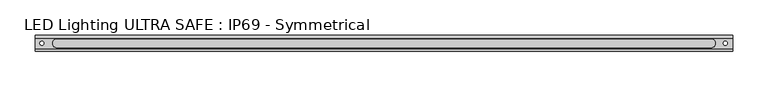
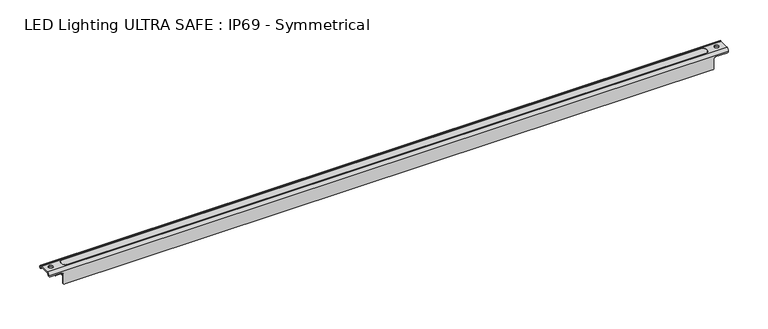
"""IFC4 building model written with IfcOpenShell, lengths in millimetres: light fixture geometry, LED Lighting ULTRA SAFE : IP69 - Symmetrical."""

from ifc_helpers import new_model, si_unit, point, frame, frame_2d, origin, place, context, project, spatial, polyline, circle_curve, trimmed, segment, composite_curve, outline, extrude, source, transform, mapped, element, save
from ifc_brep_helpers import plane_surface, cylinder_surface, revolved_surface, advanced_brep


def led_lighting_ultra_safe_ip69_symmetrical_39629687(model_context):
    return source(origin(), model_context, "Body", "SolidModel", [
        advanced_brep(
        [(1250.8476945, -96.9051608, 20.5), (1250.8476945, -100.9051608, 24.5), (1250.8476945, -115.9051608, 24.5), (1250.8476945, -119.9051608, 20.5), (1250.8476945, -118.4051608, 20.5), (1250.8476945, -115.9051608, 23.0), (1250.8476945, -100.9051608, 23.0), (1250.8476945, -98.4051608, 20.5), (260.8476945, -98.4051608, 20.5), (260.8476945, -100.9051608, 23.0), (260.8476945, -115.9051608, 23.0), (260.8476945, -118.4051608, 20.5), (260.8476945, -119.9051608, 20.5), (260.8476945, -115.9051608, 24.5), (260.8476945, -100.9051608, 24.5), (260.8476945, -96.9051608, 20.5), (283.8476945, -98.4051608, 0.0), (283.8476945, -96.9051608, 0.0), (1227.8476945, -96.9051608, 0.0), (1227.8476945, -98.4051608, 0.0), (1248.8476945, -96.9051608, 18.5), (1231.8476945, -96.9051608, 18.5), (1229.8476945, -96.9051608, 16.5), (1229.8476945, -96.9051608, 2.0), (281.8476945, -96.9051608, 2.0), (281.8476945, -96.9051608, 16.5), (279.8476945, -96.9051608, 18.5), (262.8476945, -96.9051608, 18.5), (285.8476945, -109.4051608, 24.5), (285.8476945, -107.4051608, 24.5), (290.8476945, -102.4051608, 24.5), (1220.8476945, -102.4051608, 24.5), (1225.8476945, -107.4051608, 24.5), (1225.8476945, -109.4051608, 24.5), (1220.8476945, -114.4051608, 24.5), (290.8476945, -114.4051608, 24.5), (1240.2796493, -105.3847966, 24.5), (1240.2796493, -111.3247409, 24.5), (270.2796493, -105.3847966, 24.5), (270.2796493, -111.3247409, 24.5), (262.8476945, -119.9051608, 18.5), (279.8476945, -119.9051608, 18.5), (281.8476945, -119.9051608, 16.5), (281.8476945, -119.9051608, 2.0), (283.8476945, -119.9051608, 0.0), (1227.8476945, -119.9051608, 0.0), (1229.8476945, -119.9051608, 2.0), (1229.8476945, -119.9051608, 16.5), (1231.8476945, -119.9051608, 18.5), (1248.8476945, -119.9051608, 18.5), (283.8476945, -118.4051608, 0.0), (1227.8476945, -118.4051608, 0.0), (1248.8476945, -118.4051608, 18.5), (1231.8476945, -118.4051608, 18.5), (1229.8476945, -118.4051608, 16.5), (1229.8476945, -118.4051608, 2.0), (281.8476945, -118.4051608, 2.0), (281.8476945, -118.4051608, 16.5), (279.8476945, -118.4051608, 18.5), (262.8476945, -118.4051608, 18.5), (285.8476945, -107.4051608, 23.0), (285.8476945, -109.4051608, 23.0), (290.8476945, -114.4051608, 23.0), (1220.8476945, -114.4051608, 23.0), (1225.8476945, -109.4051608, 23.0), (1225.8476945, -107.4051608, 23.0), (1220.8476945, -102.4051608, 23.0), (290.8476945, -102.4051608, 23.0), (1240.2796493, -111.3247409, 23.0), (1240.2796493, -105.3847966, 23.0), (270.2796493, -111.3247409, 23.0), (270.2796493, -105.3847966, 23.0), (262.8476945, -98.4051608, 18.5), (279.8476945, -98.4051608, 18.5), (281.8476945, -98.4051608, 16.5), (281.8476945, -98.4051608, 2.0), (1229.8476945, -98.4051608, 2.0), (1229.8476945, -98.4051608, 16.5), (1231.8476945, -98.4051608, 18.5), (1248.8476945, -98.4051608, 18.5)],
        [
            (0, 1, circle_curve(frame((1250.8476945, -100.9051608, 20.5), z_axis=(1.0, 0.0, 0.0), x_axis=(0.0, 0.0, 1.0)), 4.0)),
            (1, 2),
            (2, 3, circle_curve(frame((1250.8476945, -115.9051608, 20.5), z_axis=(1.0, 0.0, 0.0), x_axis=(0.0, 0.0, 1.0)), 4.0)),
            (3, 4),
            (4, 5, circle_curve(frame((1250.8476945, -115.9051608, 20.5), z_axis=(-1.0, 0.0, 0.0), x_axis=(0.0, 0.0, 1.0)), 2.5)),
            (5, 6),
            (6, 7, circle_curve(frame((1250.8476945, -100.9051608, 20.5), z_axis=(-1.0, 0.0, 0.0), x_axis=(0.0, 0.0, 1.0)), 2.5)),
            (7, 0),
            (8, 9, circle_curve(frame((260.8476945, -100.9051608, 20.5), z_axis=(1.0, 0.0, 0.0), x_axis=(0.0, 0.0, 1.0)), 2.5)),
            (9, 10),
            (10, 11, circle_curve(frame((260.8476945, -115.9051608, 20.5), z_axis=(1.0, 0.0, 0.0), x_axis=(0.0, 0.0, 1.0)), 2.5)),
            (11, 12),
            (12, 13, circle_curve(frame((260.8476945, -115.9051608, 20.5), z_axis=(-1.0, 0.0, 0.0), x_axis=(0.0, 0.0, 1.0)), 4.0)),
            (13, 14),
            (14, 15, circle_curve(frame((260.8476945, -100.9051608, 20.5), z_axis=(-1.0, 0.0, 0.0), x_axis=(0.0, 0.0, 1.0)), 4.0)),
            (15, 8),
            (16, 17),
            (17, 18),
            (18, 19),
            (19, 16),
            (15, 0),
            (0, 20, circle_curve(frame((1248.8476945, -96.9051608, 20.5), z_axis=(0.0, 1.0, 0.0), x_axis=(0.0, 0.0, 1.0)), 2.0)),
            (20, 21),
            (21, 22, circle_curve(frame((1231.8476945, -96.9051608, 16.5), z_axis=(0.0, -1.0, 0.0), x_axis=(0.0, 0.0, 1.0)), 2.0)),
            (22, 23),
            (23, 18, circle_curve(frame((1227.8476945, -96.9051608, 2.0), z_axis=(0.0, 1.0, 0.0), x_axis=(0.0, 0.0, 1.0)), 2.0)),
            (17, 24, circle_curve(frame((283.8476945, -96.9051608, 2.0), z_axis=(0.0, 1.0, 0.0), x_axis=(0.0, 0.0, 1.0)), 2.0)),
            (24, 25),
            (25, 26, circle_curve(frame((279.8476945, -96.9051608, 16.5), z_axis=(0.0, -1.0, 0.0), x_axis=(0.0, 0.0, 1.0)), 2.0)),
            (26, 27),
            (27, 15, circle_curve(frame((262.8476945, -96.9051608, 20.5), z_axis=(0.0, 1.0, 0.0), x_axis=(0.0, 0.0, 1.0)), 2.0)),
            (14, 1),
            (13, 2),
            (28, 29),
            (29, 30, circle_curve(frame((290.8476945, -107.4051608, 24.5), z_axis=(0.0, 0.0, -1.0), x_axis=(0.0, 1.0, 0.0)), 5.0)),
            (30, 31),
            (31, 32, circle_curve(frame((1220.8476945, -107.4051608, 24.5), z_axis=(0.0, 0.0, -1.0), x_axis=(0.0, 1.0, 0.0)), 5.0)),
            (32, 33),
            (33, 34, circle_curve(frame((1220.8476945, -109.4051608, 24.5), z_axis=(0.0, 0.0, -1.0), x_axis=(0.0, 1.0, 0.0)), 5.0)),
            (34, 35),
            (35, 28, circle_curve(frame((290.8476945, -109.4051608, 24.5), z_axis=(0.0, 0.0, -1.0), x_axis=(0.0, 1.0, 0.0)), 5.0)),
            (36, 37, circle_curve(frame((1240.2796493, -108.3547688, 24.5), z_axis=(0.0, 0.0, -1.0), x_axis=(0.0, 1.0, 0.0)), 2.9699721)),
            (37, 36, circle_curve(frame((1240.2796493, -108.3547688, 24.5), z_axis=(0.0, 0.0, -1.0), x_axis=(0.0, 1.0, 0.0)), 2.9699721)),
            (38, 39, circle_curve(frame((270.2796493, -108.3547688, 24.5), z_axis=(0.0, 0.0, -1.0), x_axis=(0.0, 1.0, 0.0)), 2.9699721)),
            (39, 38, circle_curve(frame((270.2796493, -108.3547688, 24.5), z_axis=(0.0, 0.0, -1.0), x_axis=(0.0, 1.0, 0.0)), 2.9699721)),
            (12, 3),
            (12, 40, circle_curve(frame((262.8476945, -119.9051608, 20.5), z_axis=(0.0, -1.0, 0.0), x_axis=(0.0, 0.0, 1.0)), 2.0)),
            (40, 41),
            (41, 42, circle_curve(frame((279.8476945, -119.9051608, 16.5), z_axis=(0.0, 1.0, 0.0), x_axis=(0.0, 0.0, 1.0)), 2.0)),
            (42, 43),
            (43, 44, circle_curve(frame((283.8476945, -119.9051608, 2.0), z_axis=(0.0, -1.0, 0.0), x_axis=(0.0, 0.0, 1.0)), 2.0)),
            (44, 45),
            (45, 46, circle_curve(frame((1227.8476945, -119.9051608, 2.0), z_axis=(0.0, -1.0, 0.0), x_axis=(0.0, 0.0, 1.0)), 2.0)),
            (46, 47),
            (47, 48, circle_curve(frame((1231.8476945, -119.9051608, 16.5), z_axis=(0.0, 1.0, 0.0), x_axis=(0.0, 0.0, 1.0)), 2.0)),
            (48, 49),
            (49, 3, circle_curve(frame((1248.8476945, -119.9051608, 20.5), z_axis=(0.0, -1.0, 0.0), x_axis=(0.0, 0.0, 1.0)), 2.0)),
            (44, 50),
            (50, 51),
            (51, 45),
            (11, 4),
            (4, 52, circle_curve(frame((1248.8476945, -118.4051608, 20.5), z_axis=(0.0, 1.0, 0.0), x_axis=(0.0, 0.0, 1.0)), 2.0)),
            (52, 53),
            (53, 54, circle_curve(frame((1231.8476945, -118.4051608, 16.5), z_axis=(0.0, -1.0, 0.0), x_axis=(0.0, 0.0, 1.0)), 2.0)),
            (54, 55),
            (55, 51, circle_curve(frame((1227.8476945, -118.4051608, 2.0), z_axis=(0.0, 1.0, 0.0), x_axis=(0.0, 0.0, 1.0)), 2.0)),
            (50, 56, circle_curve(frame((283.8476945, -118.4051608, 2.0), z_axis=(0.0, 1.0, 0.0), x_axis=(0.0, 0.0, 1.0)), 2.0)),
            (56, 57),
            (57, 58, circle_curve(frame((279.8476945, -118.4051608, 16.5), z_axis=(0.0, -1.0, 0.0), x_axis=(0.0, 0.0, 1.0)), 2.0)),
            (58, 59),
            (59, 11, circle_curve(frame((262.8476945, -118.4051608, 20.5), z_axis=(0.0, 1.0, 0.0), x_axis=(0.0, 0.0, 1.0)), 2.0)),
            (10, 5),
            (9, 6),
            (60, 61),
            (61, 62, circle_curve(frame((290.8476945, -109.4051608, 23.0), z_axis=(0.0, 0.0, 1.0), x_axis=(0.0, 1.0, 0.0)), 5.0)),
            (62, 63),
            (63, 64, circle_curve(frame((1220.8476945, -109.4051608, 23.0), z_axis=(0.0, 0.0, 1.0), x_axis=(0.0, 1.0, 0.0)), 5.0)),
            (64, 65),
            (65, 66, circle_curve(frame((1220.8476945, -107.4051608, 23.0), z_axis=(0.0, 0.0, 1.0), x_axis=(0.0, 1.0, 0.0)), 5.0)),
            (66, 67),
            (67, 60, circle_curve(frame((290.8476945, -107.4051608, 23.0), z_axis=(0.0, 0.0, 1.0), x_axis=(0.0, 1.0, 0.0)), 5.0)),
            (68, 69, circle_curve(frame((1240.2796493, -108.3547688, 23.0), z_axis=(0.0, 0.0, 1.0), x_axis=(0.0, 1.0, 0.0)), 2.9699721)),
            (69, 68, circle_curve(frame((1240.2796493, -108.3547688, 23.0), z_axis=(0.0, 0.0, 1.0), x_axis=(0.0, 1.0, 0.0)), 2.9699721)),
            (70, 71, circle_curve(frame((270.2796493, -108.3547688, 23.0), z_axis=(0.0, 0.0, 1.0), x_axis=(0.0, 1.0, 0.0)), 2.9699721)),
            (71, 70, circle_curve(frame((270.2796493, -108.3547688, 23.0), z_axis=(0.0, 0.0, 1.0), x_axis=(0.0, 1.0, 0.0)), 2.9699721)),
            (8, 7),
            (8, 72, circle_curve(frame((262.8476945, -98.4051608, 20.5), z_axis=(0.0, -1.0, 0.0), x_axis=(0.0, 0.0, 1.0)), 2.0)),
            (72, 73),
            (73, 74, circle_curve(frame((279.8476945, -98.4051608, 16.5), z_axis=(0.0, 1.0, 0.0), x_axis=(0.0, 0.0, 1.0)), 2.0)),
            (74, 75),
            (75, 16, circle_curve(frame((283.8476945, -98.4051608, 2.0), z_axis=(0.0, -1.0, 0.0), x_axis=(0.0, 0.0, 1.0)), 2.0)),
            (19, 76, circle_curve(frame((1227.8476945, -98.4051608, 2.0), z_axis=(0.0, -1.0, 0.0), x_axis=(0.0, 0.0, 1.0)), 2.0)),
            (76, 77),
            (77, 78, circle_curve(frame((1231.8476945, -98.4051608, 16.5), z_axis=(0.0, 1.0, 0.0), x_axis=(0.0, 0.0, 1.0)), 2.0)),
            (78, 79),
            (79, 7, circle_curve(frame((1248.8476945, -98.4051608, 20.5), z_axis=(0.0, -1.0, 0.0), x_axis=(0.0, 0.0, 1.0)), 2.0)),
            (60, 29),
            (28, 61),
            (35, 62),
            (34, 63),
            (33, 64),
            (32, 65),
            (31, 66),
            (30, 67),
            (40, 59),
            (58, 41),
            (72, 27),
            (26, 73),
            (57, 42),
            (25, 74),
            (56, 43),
            (24, 75),
            (48, 53),
            (52, 49),
            (78, 21),
            (20, 79),
            (47, 54),
            (77, 22),
            (46, 55),
            (76, 23),
            (68, 37),
            (36, 69),
            (70, 39),
            (38, 71),
        ],
        [
            plane_surface(frame((1250.8476945, 1117.6, 0.0), z_axis=(1.0, 0.0, 0.0), x_axis=(0.0, 1.0, 0.0))),
            plane_surface(frame((260.8476945, 1117.6, 0.0), z_axis=(-1.0, 0.0, 0.0), x_axis=(0.0, -1.0, 0.0))),
            plane_surface(frame((1250.8476945, -98.4051608, 0.0), z_axis=(0.0, 0.0, -1.0), x_axis=(-1.0, 0.0, 0.0))),
            plane_surface(frame((1250.8476945, -96.9051608, 0.0), z_axis=(0.0, 1.0, 0.0), x_axis=(-1.0, 0.0, 0.0))),
            cylinder_surface(frame((260.8476945, -100.9051608, 20.5), z_axis=(1.0, 0.0, 0.0), x_axis=(0.0, 0.0, 1.0)), 4.0),
            plane_surface(frame((1250.8476945, -100.9051608, 24.5), z_axis=(0.0, 0.0, 1.0), x_axis=(-1.0, 0.0, 0.0))),
            cylinder_surface(frame((260.8476945, -115.9051608, 20.5), z_axis=(1.0, 0.0, 0.0), x_axis=(0.0, 0.0, 1.0)), 4.0),
            plane_surface(frame((1250.8476945, -119.9051608, 20.5), z_axis=(0.0, -1.0, 0.0), x_axis=(-1.0, 0.0, 0.0))),
            plane_surface(frame((1250.8476945, -119.9051608, 0.0), z_axis=(0.0, 0.0, -1.0), x_axis=(-1.0, 0.0, 0.0))),
            plane_surface(frame((1250.8476945, -118.4051608, 0.0), z_axis=(0.0, 1.0, 0.0), x_axis=(-1.0, 0.0, 0.0))),
            revolved_surface(polyline([(260.8476945, -115.9051608, 23.0), (1250.8476945, -115.9051608, 23.0)]), (260.8476945, -115.9051608, 20.5), (-1.0, 0.0, 0.0)),
            plane_surface(frame((1250.8476945, -115.9051608, 23.0), z_axis=(0.0, 0.0, -1.0), x_axis=(-1.0, 0.0, 0.0))),
            revolved_surface(polyline([(260.8476945, -100.9051608, 23.0), (1250.8476945, -100.9051608, 23.0)]), (260.8476945, -100.9051608, 20.5), (-1.0, 0.0, 0.0)),
            plane_surface(frame((1250.8476945, -98.4051608, 20.5), z_axis=(0.0, -1.0, 0.0), x_axis=(-1.0, 0.0, 0.0))),
            plane_surface(frame((285.8476945, -107.4051608, 29.4270464), z_axis=(1.0, 0.0, 0.0), x_axis=(0.0, 0.0, -1.0))),
            revolved_surface(polyline([(290.8476945, -104.4051608, 24.5), (290.8476945, -104.4051608, 23.0)]), (290.8476945, -109.4051608, 22.9431588), (0.0, 0.0, 1.0)),
            plane_surface(frame((290.8476945, -114.4051608, 29.4270464), z_axis=(0.0, 1.0, 0.0), x_axis=(0.0, 0.0, -1.0))),
            revolved_surface(polyline([(1220.8476945, -104.4051608, 24.5), (1220.8476945, -104.4051608, 23.0)]), (1220.8476945, -109.4051608, 22.9431588), (0.0, 0.0, 1.0)),
            plane_surface(frame((1225.8476945, -109.4051608, 29.4270464), z_axis=(-1.0, 1.488942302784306e-12, 0.0), x_axis=(0.0, 0.0, -1.0))),
            revolved_surface(polyline([(1220.8476945, -102.4051608, 24.5), (1220.8476945, -102.4051608, 23.0)]), (1220.8476945, -107.4051608, 22.9431588), (0.0, 0.0, 1.0)),
            plane_surface(frame((1220.8476945, -102.4051608, 29.4270464), z_axis=(0.0, -1.0, 0.0), x_axis=(0.0, 0.0, -1.0))),
            revolved_surface(polyline([(290.8476945, -102.4051608, 24.5), (290.8476945, -102.4051608, 23.0)]), (290.8476945, -107.4051608, 22.9431588), (0.0, 0.0, 1.0)),
            plane_surface(frame((262.8476945, -87.6368012, 18.5), z_axis=(0.0, 0.0, -1.0), x_axis=(0.0, -1.0, 0.0))),
            revolved_surface(polyline([(279.8476945, -118.4051608, 18.5), (279.8476945, -119.9051608, 18.5)]), (279.8476945, -127.4146389, 16.5), (0.0, 1.0, 0.0)),
            revolved_surface(polyline([(279.8476945, -96.9051608, 18.5), (279.8476945, -98.4051608, 18.5)]), (279.8476945, -127.4146389, 16.5), (0.0, 1.0, 0.0)),
            plane_surface(frame((281.8476945, -87.6368012, 16.5), z_axis=(-1.0, 0.0, 0.0), x_axis=(0.0, -1.0, 0.0))),
            cylinder_surface(frame((283.8476945, -127.4146389, 2.0), z_axis=(0.0, -1.0, 0.0), x_axis=(0.0, 0.0, 1.0)), 2.0),
            cylinder_surface(frame((262.8476945, -127.4146389, 20.5), z_axis=(0.0, -1.0, 0.0), x_axis=(0.0, 0.0, 1.0)), 2.0),
            plane_surface(frame((1231.8476945, -87.6368012, 18.5), z_axis=(0.0, 0.0, -1.0), x_axis=(0.0, -1.0, 0.0))),
            revolved_surface(polyline([(1231.8476945, -118.4051608, 18.5), (1231.8476945, -119.9051608, 18.5)]), (1231.8476945, -127.4146389, 16.5), (0.0, 1.0, 0.0)),
            revolved_surface(polyline([(1231.8476945, -96.9051608, 18.5), (1231.8476945, -98.4051608, 18.5)]), (1231.8476945, -127.4146389, 16.5), (0.0, 1.0, 0.0)),
            plane_surface(frame((1229.8476945, -87.6368012, 2.0), z_axis=(1.0, 0.0, 0.0), x_axis=(0.0, -1.0, 0.0))),
            cylinder_surface(frame((1227.8476945, -127.4146389, 2.0), z_axis=(0.0, -1.0, 0.0), x_axis=(0.0, 0.0, 1.0)), 2.0),
            cylinder_surface(frame((1248.8476945, -127.4146389, 20.5), z_axis=(0.0, -1.0, 0.0), x_axis=(0.0, 0.0, 1.0)), 2.0),
            revolved_surface(polyline([(1240.2796493, -105.3847967, 24.5), (1240.2796493, -105.3847967, 23.0)]), (1240.2796493, -108.3547688, 19.894765), (0.0, 0.0, 1.0)),
            revolved_surface(polyline([(270.2796493, -105.3847967, 24.5), (270.2796493, -105.3847967, 23.0)]), (270.2796493, -108.3547688, 19.894765), (0.0, 0.0, 1.0)),
        ],
        [
            (0, [[1, 2, 3, 4, 5, 6, 7, 8]]),
            (1, [[9, 10, 11, 12, 13, 14, 15, 16]]),
            (2, [[17, 18, 19, 20]]),
            (3, [[21, 22, 23, 24, 25, 26, -18, 27, 28, 29, 30, 31]]),
            (4, [[-1, -21, -15, 32]]),
            (5, [[-2, -32, -14, 33], [34, 35, 36, 37, 38, 39, 40, 41], [42, 43], [44, 45]]),
            (6, [[-3, -33, -13, 46]]),
            (7, [[-46, 47, 48, 49, 50, 51, 52, 53, 54, 55, 56, 57]]),
            (8, [[58, 59, 60, -52]]),
            (9, [[61, 62, 63, 64, 65, 66, -59, 67, 68, 69, 70, 71]]),
            (10, [[-5, -61, -11, 72]]),
            (11, [[-6, -72, -10, 73], [74, 75, 76, 77, 78, 79, 80, 81], [82, 83], [84, 85]]),
            (12, [[-7, -73, -9, 86]]),
            (13, [[-86, 87, 88, 89, 90, 91, -20, 92, 93, 94, 95, 96]]),
            (14, [[97, -34, 98, -74]]),
            (15, [[-98, -41, 99, -75]]),
            (16, [[-99, -40, 100, -76]]),
            (17, [[-100, -39, 101, -77]]),
            (18, [[-101, -38, 102, -78]]),
            (19, [[-102, -37, 103, -79]]),
            (20, [[-103, -36, 104, -80]]),
            (21, [[-97, -81, -104, -35]]),
            (22, [[105, -70, 106, -48]]),
            (22, [[107, -30, 108, -88]]),
            (23, [[-106, -69, 109, -49]]),
            (24, [[-108, -29, 110, -89]]),
            (25, [[-109, -68, 111, -50]]),
            (25, [[-110, -28, 112, -90]]),
            (26, [[-111, -67, -58, -51]]),
            (26, [[-112, -27, -17, -91]]),
            (27, [[-105, -47, -12, -71]]),
            (27, [[-107, -87, -16, -31]]),
            (28, [[113, -63, 114, -56]]),
            (28, [[115, -23, 116, -95]]),
            (29, [[-113, -55, 117, -64]]),
            (30, [[-115, -94, 118, -24]]),
            (31, [[-117, -54, 119, -65]]),
            (31, [[-118, -93, 120, -25]]),
            (32, [[-119, -53, -60, -66]]),
            (32, [[-120, -92, -19, -26]]),
            (33, [[-114, -62, -4, -57]]),
            (33, [[-116, -22, -8, -96]]),
            (34, [[121, -42, 122, -82]]),
            (34, [[-121, -83, -122, -43]]),
            (35, [[123, -44, 124, -84]]),
            (35, [[-123, -85, -124, -45]]),
        ],
    ),
        extrude(outline(composite_curve([segment(polyline([(23.0, 282.6476945), (23.0, 281.8476945), (14.0, 281.8476945)]), True, "CONTINUOUS"), segment(trimmed(circle_curve(frame_2d((14.0, 285.6476945)), 3.8), [point((14.0, 281.8476945))], [point((10.2, 285.6476945))], False, "CARTESIAN"), True, "CONTINUOUS"), segment(polyline([(10.2, 285.6476945), (10.2, 1226.0476945)]), True, "CONTINUOUS"), segment(trimmed(circle_curve(frame_2d((14.0, 1226.0476945)), 3.8), [point((10.2, 1226.0476945))], [point((14.0, 1229.8476945))], False, "CARTESIAN"), True, "CONTINUOUS"), segment(polyline([(14.0, 1229.8476945), (23.0, 1229.8476945), (23.0, 1229.0476945), (14.0, 1229.0476945)]), True, "CONTINUOUS"), segment(trimmed(circle_curve(frame_2d((14.0, 1226.0476945)), 3.0), [point((14.0, 1229.0476945))], [point((11.0, 1226.0476945))], True, "CARTESIAN"), True, "CONTINUOUS"), segment(polyline([(11.0, 1226.0476945), (11.0, 285.6476945)]), True, "CONTINUOUS"), segment(trimmed(circle_curve(frame_2d((14.0, 285.6476945)), 3.0), [point((11.0, 285.6476945))], [point((14.0, 282.6476945))], True, "CARTESIAN"), True, "CONTINUOUS"), segment(polyline([(14.0, 282.6476945), (23.0, 282.6476945)]), True, "CONTINUOUS")], self_intersect=False)), frame((0.0, -117.6710936, 0.0), z_axis=(0.0, 1.0, 0.0), x_axis=(0.0, 0.0, 1.0)), (0.0, 0.0, 1.0), 18.6495064),
        extrude(outline(composite_curve([segment(trimmed(circle_curve(frame_2d((1220.8476945, -109.4051608)), 5.0), [point((1225.8476945, -109.4051608))], [point((1220.8476945, -114.4051608))], False, "CARTESIAN"), True, "CONTINUOUS"), segment(polyline([(1220.8476945, -114.4051608), (290.8476945, -114.4051608)]), True, "CONTINUOUS"), segment(trimmed(circle_curve(frame_2d((290.8476945, -109.4051608)), 5.0), [point((290.8476945, -114.4051608))], [point((285.8476945, -109.4051608))], False, "CARTESIAN"), True, "CONTINUOUS"), segment(polyline([(285.8476945, -109.4051608), (285.8476945, -107.4051608)]), True, "CONTINUOUS"), segment(trimmed(circle_curve(frame_2d((290.8476945, -107.4051608)), 5.0), [point((285.8476945, -107.4051608))], [point((290.8476945, -102.4051608))], False, "CARTESIAN"), True, "CONTINUOUS"), segment(polyline([(290.8476945, -102.4051608), (1220.8476945, -102.4051608)]), True, "CONTINUOUS"), segment(trimmed(circle_curve(frame_2d((1220.8476945, -107.4051608)), 5.0), [point((1220.8476945, -102.4051608))], [point((1225.8476945, -107.4051608))], False, "CARTESIAN"), True, "CONTINUOUS"), segment(polyline([(1225.8476945, -107.4051608), (1225.8476945, -109.4051608)]), True, "CONTINUOUS")], self_intersect=False)), frame((0.0, 0.0, 23.0), z_axis=(0.0, 0.0, 1.0), x_axis=(1.0, 0.0, 0.0)), (0.0, 0.0, 1.0), 1.5),
        extrude(outline(polyline([(1222.8476945, -105.9051608), (1222.8476945, -110.9051608), (1217.8476945, -110.9051608), (1217.8476945, -105.9051608), (1222.8476945, -105.9051608)])), frame((0.0, 0.0, 11.0), z_axis=(0.0, 0.0, 1.0), x_axis=(1.0, 0.0, 0.0)), (0.0, 0.0, 1.0), 1.0956658),
        extrude(outline(polyline([(293.8476945, -105.9051608), (293.8476945, -110.9051608), (288.8476945, -110.9051608), (288.8476945, -105.9051608), (293.8476945, -105.9051608)])), frame((0.0, 0.0, 11.0), z_axis=(0.0, 0.0, 1.0), x_axis=(1.0, 0.0, 0.0)), (0.0, 0.0, 1.0), 1.0956658),
        extrude(outline(polyline([(1213.4638562, -105.9051608), (1213.4638562, -110.9051608), (1208.4638562, -110.9051608), (1208.4638562, -105.9051608), (1213.4638562, -105.9051608)])), frame((0.0, 0.0, 11.0), z_axis=(0.0, 0.0, 1.0), x_axis=(1.0, 0.0, 0.0)), (0.0, 0.0, 1.0), 1.0956658),
        extrude(outline(polyline([(1204.0800178, -105.9051608), (1204.0800178, -110.9051608), (1199.0800178, -110.9051608), (1199.0800178, -105.9051608), (1204.0800178, -105.9051608)])), frame((0.0, 0.0, 11.0), z_axis=(0.0, 0.0, 1.0), x_axis=(1.0, 0.0, 0.0)), (0.0, 0.0, 1.0), 1.0956658),
        extrude(outline(polyline([(1194.6961794, -105.9051608), (1194.6961794, -110.9051608), (1189.6961794, -110.9051608), (1189.6961794, -105.9051608), (1194.6961794, -105.9051608)])), frame((0.0, 0.0, 11.0), z_axis=(0.0, 0.0, 1.0), x_axis=(1.0, 0.0, 0.0)), (0.0, 0.0, 1.0), 1.0956658),
        extrude(outline(polyline([(1185.312341, -105.9051608), (1185.312341, -110.9051608), (1180.312341, -110.9051608), (1180.312341, -105.9051608), (1185.312341, -105.9051608)])), frame((0.0, 0.0, 11.0), z_axis=(0.0, 0.0, 1.0), x_axis=(1.0, 0.0, 0.0)), (0.0, 0.0, 1.0), 1.0956658),
        extrude(outline(polyline([(1175.9285026, -105.9051608), (1175.9285026, -110.9051608), (1170.9285026, -110.9051608), (1170.9285026, -105.9051608), (1175.9285026, -105.9051608)])), frame((0.0, 0.0, 11.0), z_axis=(0.0, 0.0, 1.0), x_axis=(1.0, 0.0, 0.0)), (0.0, 0.0, 1.0), 1.0956658),
        extrude(outline(polyline([(1166.5446642, -105.9051608), (1166.5446642, -110.9051608), (1161.5446642, -110.9051608), (1161.5446642, -105.9051608), (1166.5446642, -105.9051608)])), frame((0.0, 0.0, 11.0), z_axis=(0.0, 0.0, 1.0), x_axis=(1.0, 0.0, 0.0)), (0.0, 0.0, 1.0), 1.0956658),
        extrude(outline(polyline([(1157.1608259, -105.9051608), (1157.1608259, -110.9051608), (1152.1608259, -110.9051608), (1152.1608259, -105.9051608), (1157.1608259, -105.9051608)])), frame((0.0, 0.0, 11.0), z_axis=(0.0, 0.0, 1.0), x_axis=(1.0, 0.0, 0.0)), (0.0, 0.0, 1.0), 1.0956658),
        extrude(outline(polyline([(1147.7769875, -105.9051608), (1147.7769875, -110.9051608), (1142.7769875, -110.9051608), (1142.7769875, -105.9051608), (1147.7769875, -105.9051608)])), frame((0.0, 0.0, 11.0), z_axis=(0.0, 0.0, 1.0), x_axis=(1.0, 0.0, 0.0)), (0.0, 0.0, 1.0), 1.0956658),
        extrude(outline(polyline([(1138.3931491, -105.9051608), (1138.3931491, -110.9051608), (1133.3931491, -110.9051608), (1133.3931491, -105.9051608), (1138.3931491, -105.9051608)])), frame((0.0, 0.0, 11.0), z_axis=(0.0, 0.0, 1.0), x_axis=(1.0, 0.0, 0.0)), (0.0, 0.0, 1.0), 1.0956658),
        extrude(outline(polyline([(1129.0093107, -105.9051608), (1129.0093107, -110.9051608), (1124.0093107, -110.9051608), (1124.0093107, -105.9051608), (1129.0093107, -105.9051608)])), frame((0.0, 0.0, 11.0), z_axis=(0.0, 0.0, 1.0), x_axis=(1.0, 0.0, 0.0)), (0.0, 0.0, 1.0), 1.0956658),
        extrude(outline(polyline([(1119.6254723, -105.9051608), (1119.6254723, -110.9051608), (1114.6254723, -110.9051608), (1114.6254723, -105.9051608), (1119.6254723, -105.9051608)])), frame((0.0, 0.0, 11.0), z_axis=(0.0, 0.0, 1.0), x_axis=(1.0, 0.0, 0.0)), (0.0, 0.0, 1.0), 1.0956658),
        extrude(outline(polyline([(1110.2416339, -105.9051608), (1110.2416339, -110.9051608), (1105.2416339, -110.9051608), (1105.2416339, -105.9051608), (1110.2416339, -105.9051608)])), frame((0.0, 0.0, 11.0), z_axis=(0.0, 0.0, 1.0), x_axis=(1.0, 0.0, 0.0)), (0.0, 0.0, 1.0), 1.0956658),
        extrude(outline(polyline([(1100.8577956, -105.9051608), (1100.8577956, -110.9051608), (1095.8577956, -110.9051608), (1095.8577956, -105.9051608), (1100.8577956, -105.9051608)])), frame((0.0, 0.0, 11.0), z_axis=(0.0, 0.0, 1.0), x_axis=(1.0, 0.0, 0.0)), (0.0, 0.0, 1.0), 1.0956658),
        extrude(outline(polyline([(1091.4739572, -105.9051608), (1091.4739572, -110.9051608), (1086.4739572, -110.9051608), (1086.4739572, -105.9051608), (1091.4739572, -105.9051608)])), frame((0.0, 0.0, 11.0), z_axis=(0.0, 0.0, 1.0), x_axis=(1.0, 0.0, 0.0)), (0.0, 0.0, 1.0), 1.0956658),
        extrude(outline(polyline([(1082.0901188, -105.9051608), (1082.0901188, -110.9051608), (1077.0901188, -110.9051608), (1077.0901188, -105.9051608), (1082.0901188, -105.9051608)])), frame((0.0, 0.0, 11.0), z_axis=(0.0, 0.0, 1.0), x_axis=(1.0, 0.0, 0.0)), (0.0, 0.0, 1.0), 1.0956658),
        extrude(outline(polyline([(1072.7062804, -105.9051608), (1072.7062804, -110.9051608), (1067.7062804, -110.9051608), (1067.7062804, -105.9051608), (1072.7062804, -105.9051608)])), frame((0.0, 0.0, 11.0), z_axis=(0.0, 0.0, 1.0), x_axis=(1.0, 0.0, 0.0)), (0.0, 0.0, 1.0), 1.0956658),
        extrude(outline(polyline([(1063.322442, -105.9051608), (1063.322442, -110.9051608), (1058.322442, -110.9051608), (1058.322442, -105.9051608), (1063.322442, -105.9051608)])), frame((0.0, 0.0, 11.0), z_axis=(0.0, 0.0, 1.0), x_axis=(1.0, 0.0, 0.0)), (0.0, 0.0, 1.0), 1.0956658),
        extrude(outline(polyline([(1053.9386036, -105.9051608), (1053.9386036, -110.9051608), (1048.9386036, -110.9051608), (1048.9386036, -105.9051608), (1053.9386036, -105.9051608)])), frame((0.0, 0.0, 11.0), z_axis=(0.0, 0.0, 1.0), x_axis=(1.0, 0.0, 0.0)), (0.0, 0.0, 1.0), 1.0956658),
        extrude(outline(polyline([(1044.5547652, -105.9051608), (1044.5547652, -110.9051608), (1039.5547652, -110.9051608), (1039.5547652, -105.9051608), (1044.5547652, -105.9051608)])), frame((0.0, 0.0, 11.0), z_axis=(0.0, 0.0, 1.0), x_axis=(1.0, 0.0, 0.0)), (0.0, 0.0, 1.0), 1.0956658),
        extrude(outline(polyline([(1035.1709269, -105.9051608), (1035.1709269, -110.9051608), (1030.1709269, -110.9051608), (1030.1709269, -105.9051608), (1035.1709269, -105.9051608)])), frame((0.0, 0.0, 11.0), z_axis=(0.0, 0.0, 1.0), x_axis=(1.0, 0.0, 0.0)), (0.0, 0.0, 1.0), 1.0956658),
        extrude(outline(polyline([(1025.7870885, -105.9051608), (1025.7870885, -110.9051608), (1020.7870885, -110.9051608), (1020.7870885, -105.9051608), (1025.7870885, -105.9051608)])), frame((0.0, 0.0, 11.0), z_axis=(0.0, 0.0, 1.0), x_axis=(1.0, 0.0, 0.0)), (0.0, 0.0, 1.0), 1.0956658),
        extrude(outline(polyline([(1016.4032501, -105.9051608), (1016.4032501, -110.9051608), (1011.4032501, -110.9051608), (1011.4032501, -105.9051608), (1016.4032501, -105.9051608)])), frame((0.0, 0.0, 11.0), z_axis=(0.0, 0.0, 1.0), x_axis=(1.0, 0.0, 0.0)), (0.0, 0.0, 1.0), 1.0956658),
        extrude(outline(polyline([(1007.0194117, -105.9051608), (1007.0194117, -110.9051608), (1002.0194117, -110.9051608), (1002.0194117, -105.9051608), (1007.0194117, -105.9051608)])), frame((0.0, 0.0, 11.0), z_axis=(0.0, 0.0, 1.0), x_axis=(1.0, 0.0, 0.0)), (0.0, 0.0, 1.0), 1.0956658),
        extrude(outline(polyline([(997.6355733, -105.9051608), (997.6355733, -110.9051608), (992.6355733, -110.9051608), (992.6355733, -105.9051608), (997.6355733, -105.9051608)])), frame((0.0, 0.0, 11.0), z_axis=(0.0, 0.0, 1.0), x_axis=(1.0, 0.0, 0.0)), (0.0, 0.0, 1.0), 1.0956658),
        extrude(outline(polyline([(988.2517349, -105.9051608), (988.2517349, -110.9051608), (983.2517349, -110.9051608), (983.2517349, -105.9051608), (988.2517349, -105.9051608)])), frame((0.0, 0.0, 11.0), z_axis=(0.0, 0.0, 1.0), x_axis=(1.0, 0.0, 0.0)), (0.0, 0.0, 1.0), 1.0956658),
        extrude(outline(polyline([(978.8678966, -105.9051608), (978.8678966, -110.9051608), (973.8678966, -110.9051608), (973.8678966, -105.9051608), (978.8678966, -105.9051608)])), frame((0.0, 0.0, 11.0), z_axis=(0.0, 0.0, 1.0), x_axis=(1.0, 0.0, 0.0)), (0.0, 0.0, 1.0), 1.0956658),
        extrude(outline(polyline([(969.4840582, -105.9051608), (969.4840582, -110.9051608), (964.4840582, -110.9051608), (964.4840582, -105.9051608), (969.4840582, -105.9051608)])), frame((0.0, 0.0, 11.0), z_axis=(0.0, 0.0, 1.0), x_axis=(1.0, 0.0, 0.0)), (0.0, 0.0, 1.0), 1.0956658),
        extrude(outline(polyline([(960.1002198, -105.9051608), (960.1002198, -110.9051608), (955.1002198, -110.9051608), (955.1002198, -105.9051608), (960.1002198, -105.9051608)])), frame((0.0, 0.0, 11.0), z_axis=(0.0, 0.0, 1.0), x_axis=(1.0, 0.0, 0.0)), (0.0, 0.0, 1.0), 1.0956658),
        extrude(outline(polyline([(950.7163814, -105.9051608), (950.7163814, -110.9051608), (945.7163814, -110.9051608), (945.7163814, -105.9051608), (950.7163814, -105.9051608)])), frame((0.0, 0.0, 11.0), z_axis=(0.0, 0.0, 1.0), x_axis=(1.0, 0.0, 0.0)), (0.0, 0.0, 1.0), 1.0956658),
        extrude(outline(polyline([(941.332543, -105.9051608), (941.332543, -110.9051608), (936.332543, -110.9051608), (936.332543, -105.9051608), (941.332543, -105.9051608)])), frame((0.0, 0.0, 11.0), z_axis=(0.0, 0.0, 1.0), x_axis=(1.0, 0.0, 0.0)), (0.0, 0.0, 1.0), 1.0956658),
        extrude(outline(polyline([(931.9487046, -105.9051608), (931.9487046, -110.9051608), (926.9487046, -110.9051608), (926.9487046, -105.9051608), (931.9487046, -105.9051608)])), frame((0.0, 0.0, 11.0), z_axis=(0.0, 0.0, 1.0), x_axis=(1.0, 0.0, 0.0)), (0.0, 0.0, 1.0), 1.0956658),
        extrude(outline(polyline([(922.5648663, -105.9051608), (922.5648663, -110.9051608), (917.5648663, -110.9051608), (917.5648663, -105.9051608), (922.5648663, -105.9051608)])), frame((0.0, 0.0, 11.0), z_axis=(0.0, 0.0, 1.0), x_axis=(1.0, 0.0, 0.0)), (0.0, 0.0, 1.0), 1.0956658),
        extrude(outline(polyline([(913.1810279, -105.9051608), (913.1810279, -110.9051608), (908.1810279, -110.9051608), (908.1810279, -105.9051608), (913.1810279, -105.9051608)])), frame((0.0, 0.0, 11.0), z_axis=(0.0, 0.0, 1.0), x_axis=(1.0, 0.0, 0.0)), (0.0, 0.0, 1.0), 1.0956658),
        extrude(outline(polyline([(903.7971895, -105.9051608), (903.7971895, -110.9051608), (898.7971895, -110.9051608), (898.7971895, -105.9051608), (903.7971895, -105.9051608)])), frame((0.0, 0.0, 11.0), z_axis=(0.0, 0.0, 1.0), x_axis=(1.0, 0.0, 0.0)), (0.0, 0.0, 1.0), 1.0956658),
        extrude(outline(polyline([(894.4133511, -105.9051608), (894.4133511, -110.9051608), (889.4133511, -110.9051608), (889.4133511, -105.9051608), (894.4133511, -105.9051608)])), frame((0.0, 0.0, 11.0), z_axis=(0.0, 0.0, 1.0), x_axis=(1.0, 0.0, 0.0)), (0.0, 0.0, 1.0), 1.0956658),
        extrude(outline(polyline([(885.0295127, -105.9051608), (885.0295127, -110.9051608), (880.0295127, -110.9051608), (880.0295127, -105.9051608), (885.0295127, -105.9051608)])), frame((0.0, 0.0, 11.0), z_axis=(0.0, 0.0, 1.0), x_axis=(1.0, 0.0, 0.0)), (0.0, 0.0, 1.0), 1.0956658),
        extrude(outline(polyline([(875.6456743, -105.9051608), (875.6456743, -110.9051608), (870.6456743, -110.9051608), (870.6456743, -105.9051608), (875.6456743, -105.9051608)])), frame((0.0, 0.0, 11.0), z_axis=(0.0, 0.0, 1.0), x_axis=(1.0, 0.0, 0.0)), (0.0, 0.0, 1.0), 1.0956658),
        extrude(outline(polyline([(866.261836, -105.9051608), (866.261836, -110.9051608), (861.261836, -110.9051608), (861.261836, -105.9051608), (866.261836, -105.9051608)])), frame((0.0, 0.0, 11.0), z_axis=(0.0, 0.0, 1.0), x_axis=(1.0, 0.0, 0.0)), (0.0, 0.0, 1.0), 1.0956658),
        extrude(outline(polyline([(856.8779976, -105.9051608), (856.8779976, -110.9051608), (851.8779976, -110.9051608), (851.8779976, -105.9051608), (856.8779976, -105.9051608)])), frame((0.0, 0.0, 11.0), z_axis=(0.0, 0.0, 1.0), x_axis=(1.0, 0.0, 0.0)), (0.0, 0.0, 1.0), 1.0956658),
        extrude(outline(polyline([(847.4941592, -105.9051608), (847.4941592, -110.9051608), (842.4941592, -110.9051608), (842.4941592, -105.9051608), (847.4941592, -105.9051608)])), frame((0.0, 0.0, 11.0), z_axis=(0.0, 0.0, 1.0), x_axis=(1.0, 0.0, 0.0)), (0.0, 0.0, 1.0), 1.0956658),
        extrude(outline(polyline([(838.1103208, -105.9051608), (838.1103208, -110.9051608), (833.1103208, -110.9051608), (833.1103208, -105.9051608), (838.1103208, -105.9051608)])), frame((0.0, 0.0, 11.0), z_axis=(0.0, 0.0, 1.0), x_axis=(1.0, 0.0, 0.0)), (0.0, 0.0, 1.0), 1.0956658),
        extrude(outline(polyline([(828.7264824, -105.9051608), (828.7264824, -110.9051608), (823.7264824, -110.9051608), (823.7264824, -105.9051608), (828.7264824, -105.9051608)])), frame((0.0, 0.0, 11.0), z_axis=(0.0, 0.0, 1.0), x_axis=(1.0, 0.0, 0.0)), (0.0, 0.0, 1.0), 1.0956658),
        extrude(outline(polyline([(819.342644, -105.9051608), (819.342644, -110.9051608), (814.342644, -110.9051608), (814.342644, -105.9051608), (819.342644, -105.9051608)])), frame((0.0, 0.0, 11.0), z_axis=(0.0, 0.0, 1.0), x_axis=(1.0, 0.0, 0.0)), (0.0, 0.0, 1.0), 1.0956658),
        extrude(outline(polyline([(809.9588057, -105.9051608), (809.9588057, -110.9051608), (804.9588057, -110.9051608), (804.9588057, -105.9051608), (809.9588057, -105.9051608)])), frame((0.0, 0.0, 11.0), z_axis=(0.0, 0.0, 1.0), x_axis=(1.0, 0.0, 0.0)), (0.0, 0.0, 1.0), 1.0956658),
        extrude(outline(polyline([(800.5749673, -105.9051608), (800.5749673, -110.9051608), (795.5749673, -110.9051608), (795.5749673, -105.9051608), (800.5749673, -105.9051608)])), frame((0.0, 0.0, 11.0), z_axis=(0.0, 0.0, 1.0), x_axis=(1.0, 0.0, 0.0)), (0.0, 0.0, 1.0), 1.0956658),
        extrude(outline(polyline([(791.1911289, -105.9051608), (791.1911289, -110.9051608), (786.1911289, -110.9051608), (786.1911289, -105.9051608), (791.1911289, -105.9051608)])), frame((0.0, 0.0, 11.0), z_axis=(0.0, 0.0, 1.0), x_axis=(1.0, 0.0, 0.0)), (0.0, 0.0, 1.0), 1.0956658),
        extrude(outline(polyline([(781.8072905, -105.9051608), (781.8072905, -110.9051608), (776.8072905, -110.9051608), (776.8072905, -105.9051608), (781.8072905, -105.9051608)])), frame((0.0, 0.0, 11.0), z_axis=(0.0, 0.0, 1.0), x_axis=(1.0, 0.0, 0.0)), (0.0, 0.0, 1.0), 1.0956658),
        extrude(outline(polyline([(772.4234521, -105.9051608), (772.4234521, -110.9051608), (767.4234521, -110.9051608), (767.4234521, -105.9051608), (772.4234521, -105.9051608)])), frame((0.0, 0.0, 11.0), z_axis=(0.0, 0.0, 1.0), x_axis=(1.0, 0.0, 0.0)), (0.0, 0.0, 1.0), 1.0956658),
        extrude(outline(polyline([(763.0396137, -105.9051608), (763.0396137, -110.9051608), (758.0396137, -110.9051608), (758.0396137, -105.9051608), (763.0396137, -105.9051608)])), frame((0.0, 0.0, 11.0), z_axis=(0.0, 0.0, 1.0), x_axis=(1.0, 0.0, 0.0)), (0.0, 0.0, 1.0), 1.0956658),
        extrude(outline(polyline([(753.6557753, -105.9051608), (753.6557753, -110.9051608), (748.6557753, -110.9051608), (748.6557753, -105.9051608), (753.6557753, -105.9051608)])), frame((0.0, 0.0, 11.0), z_axis=(0.0, 0.0, 1.0), x_axis=(1.0, 0.0, 0.0)), (0.0, 0.0, 1.0), 1.0956658),
        extrude(outline(polyline([(744.271937, -105.9051608), (744.271937, -110.9051608), (739.271937, -110.9051608), (739.271937, -105.9051608), (744.271937, -105.9051608)])), frame((0.0, 0.0, 11.0), z_axis=(0.0, 0.0, 1.0), x_axis=(1.0, 0.0, 0.0)), (0.0, 0.0, 1.0), 1.0956658),
        extrude(outline(polyline([(734.8880986, -105.9051608), (734.8880986, -110.9051608), (729.8880986, -110.9051608), (729.8880986, -105.9051608), (734.8880986, -105.9051608)])), frame((0.0, 0.0, 11.0), z_axis=(0.0, 0.0, 1.0), x_axis=(1.0, 0.0, 0.0)), (0.0, 0.0, 1.0), 1.0956658),
        extrude(outline(polyline([(725.5042602, -105.9051608), (725.5042602, -110.9051608), (720.5042602, -110.9051608), (720.5042602, -105.9051608), (725.5042602, -105.9051608)])), frame((0.0, 0.0, 11.0), z_axis=(0.0, 0.0, 1.0), x_axis=(1.0, 0.0, 0.0)), (0.0, 0.0, 1.0), 1.0956658),
        extrude(outline(polyline([(716.1204218, -105.9051608), (716.1204218, -110.9051608), (711.1204218, -110.9051608), (711.1204218, -105.9051608), (716.1204218, -105.9051608)])), frame((0.0, 0.0, 11.0), z_axis=(0.0, 0.0, 1.0), x_axis=(1.0, 0.0, 0.0)), (0.0, 0.0, 1.0), 1.0956658),
        extrude(outline(polyline([(706.7365834, -105.9051608), (706.7365834, -110.9051608), (701.7365834, -110.9051608), (701.7365834, -105.9051608), (706.7365834, -105.9051608)])), frame((0.0, 0.0, 11.0), z_axis=(0.0, 0.0, 1.0), x_axis=(1.0, 0.0, 0.0)), (0.0, 0.0, 1.0), 1.0956658),
        extrude(outline(polyline([(697.352745, -105.9051608), (697.352745, -110.9051608), (692.352745, -110.9051608), (692.352745, -105.9051608), (697.352745, -105.9051608)])), frame((0.0, 0.0, 11.0), z_axis=(0.0, 0.0, 1.0), x_axis=(1.0, 0.0, 0.0)), (0.0, 0.0, 1.0), 1.0956658),
        extrude(outline(polyline([(687.9689067, -105.9051608), (687.9689067, -110.9051608), (682.9689067, -110.9051608), (682.9689067, -105.9051608), (687.9689067, -105.9051608)])), frame((0.0, 0.0, 11.0), z_axis=(0.0, 0.0, 1.0), x_axis=(1.0, 0.0, 0.0)), (0.0, 0.0, 1.0), 1.0956658),
        extrude(outline(polyline([(678.5850683, -105.9051608), (678.5850683, -110.9051608), (673.5850683, -110.9051608), (673.5850683, -105.9051608), (678.5850683, -105.9051608)])), frame((0.0, 0.0, 11.0), z_axis=(0.0, 0.0, 1.0), x_axis=(1.0, 0.0, 0.0)), (0.0, 0.0, 1.0), 1.0956658),
        extrude(outline(polyline([(669.2012299, -105.9051608), (669.2012299, -110.9051608), (664.2012299, -110.9051608), (664.2012299, -105.9051608), (669.2012299, -105.9051608)])), frame((0.0, 0.0, 11.0), z_axis=(0.0, 0.0, 1.0), x_axis=(1.0, 0.0, 0.0)), (0.0, 0.0, 1.0), 1.0956658),
        extrude(outline(polyline([(659.8173915, -105.9051608), (659.8173915, -110.9051608), (654.8173915, -110.9051608), (654.8173915, -105.9051608), (659.8173915, -105.9051608)])), frame((0.0, 0.0, 11.0), z_axis=(0.0, 0.0, 1.0), x_axis=(1.0, 0.0, 0.0)), (0.0, 0.0, 1.0), 1.0956658),
        extrude(outline(polyline([(650.4335531, -105.9051608), (650.4335531, -110.9051608), (645.4335531, -110.9051608), (645.4335531, -105.9051608), (650.4335531, -105.9051608)])), frame((0.0, 0.0, 11.0), z_axis=(0.0, 0.0, 1.0), x_axis=(1.0, 0.0, 0.0)), (0.0, 0.0, 1.0), 1.0956658),
        extrude(outline(polyline([(641.0497147, -105.9051608), (641.0497147, -110.9051608), (636.0497147, -110.9051608), (636.0497147, -105.9051608), (641.0497147, -105.9051608)])), frame((0.0, 0.0, 11.0), z_axis=(0.0, 0.0, 1.0), x_axis=(1.0, 0.0, 0.0)), (0.0, 0.0, 1.0), 1.0956658),
        extrude(outline(polyline([(631.6658764, -105.9051608), (631.6658764, -110.9051608), (626.6658764, -110.9051608), (626.6658764, -105.9051608), (631.6658764, -105.9051608)])), frame((0.0, 0.0, 11.0), z_axis=(0.0, 0.0, 1.0), x_axis=(1.0, 0.0, 0.0)), (0.0, 0.0, 1.0), 1.0956658),
        extrude(outline(polyline([(622.282038, -105.9051608), (622.282038, -110.9051608), (617.282038, -110.9051608), (617.282038, -105.9051608), (622.282038, -105.9051608)])), frame((0.0, 0.0, 11.0), z_axis=(0.0, 0.0, 1.0), x_axis=(1.0, 0.0, 0.0)), (0.0, 0.0, 1.0), 1.0956658),
        extrude(outline(polyline([(612.8981996, -105.9051608), (612.8981996, -110.9051608), (607.8981996, -110.9051608), (607.8981996, -105.9051608), (612.8981996, -105.9051608)])), frame((0.0, 0.0, 11.0), z_axis=(0.0, 0.0, 1.0), x_axis=(1.0, 0.0, 0.0)), (0.0, 0.0, 1.0), 1.0956658),
        extrude(outline(polyline([(603.5143612, -105.9051608), (603.5143612, -110.9051608), (598.5143612, -110.9051608), (598.5143612, -105.9051608), (603.5143612, -105.9051608)])), frame((0.0, 0.0, 11.0), z_axis=(0.0, 0.0, 1.0), x_axis=(1.0, 0.0, 0.0)), (0.0, 0.0, 1.0), 1.0956658),
        extrude(outline(polyline([(594.1305228, -105.9051608), (594.1305228, -110.9051608), (589.1305228, -110.9051608), (589.1305228, -105.9051608), (594.1305228, -105.9051608)])), frame((0.0, 0.0, 11.0), z_axis=(0.0, 0.0, 1.0), x_axis=(1.0, 0.0, 0.0)), (0.0, 0.0, 1.0), 1.0956658),
        extrude(outline(polyline([(584.7466844, -105.9051608), (584.7466844, -110.9051608), (579.7466844, -110.9051608), (579.7466844, -105.9051608), (584.7466844, -105.9051608)])), frame((0.0, 0.0, 11.0), z_axis=(0.0, 0.0, 1.0), x_axis=(1.0, 0.0, 0.0)), (0.0, 0.0, 1.0), 1.0956658),
        extrude(outline(polyline([(575.3628461, -105.9051608), (575.3628461, -110.9051608), (570.3628461, -110.9051608), (570.3628461, -105.9051608), (575.3628461, -105.9051608)])), frame((0.0, 0.0, 11.0), z_axis=(0.0, 0.0, 1.0), x_axis=(1.0, 0.0, 0.0)), (0.0, 0.0, 1.0), 1.0956658),
        extrude(outline(polyline([(565.9790077, -105.9051608), (565.9790077, -110.9051608), (560.9790077, -110.9051608), (560.9790077, -105.9051608), (565.9790077, -105.9051608)])), frame((0.0, 0.0, 11.0), z_axis=(0.0, 0.0, 1.0), x_axis=(1.0, 0.0, 0.0)), (0.0, 0.0, 1.0), 1.0956658),
        extrude(outline(polyline([(556.5951693, -105.9051608), (556.5951693, -110.9051608), (551.5951693, -110.9051608), (551.5951693, -105.9051608), (556.5951693, -105.9051608)])), frame((0.0, 0.0, 11.0), z_axis=(0.0, 0.0, 1.0), x_axis=(1.0, 0.0, 0.0)), (0.0, 0.0, 1.0), 1.0956658),
        extrude(outline(polyline([(547.2113309, -105.9051608), (547.2113309, -110.9051608), (542.2113309, -110.9051608), (542.2113309, -105.9051608), (547.2113309, -105.9051608)])), frame((0.0, 0.0, 11.0), z_axis=(0.0, 0.0, 1.0), x_axis=(1.0, 0.0, 0.0)), (0.0, 0.0, 1.0), 1.0956658),
        extrude(outline(polyline([(537.8274925, -105.9051608), (537.8274925, -110.9051608), (532.8274925, -110.9051608), (532.8274925, -105.9051608), (537.8274925, -105.9051608)])), frame((0.0, 0.0, 11.0), z_axis=(0.0, 0.0, 1.0), x_axis=(1.0, 0.0, 0.0)), (0.0, 0.0, 1.0), 1.0956658),
        extrude(outline(polyline([(528.4436541, -105.9051608), (528.4436541, -110.9051608), (523.4436541, -110.9051608), (523.4436541, -105.9051608), (528.4436541, -105.9051608)])), frame((0.0, 0.0, 11.0), z_axis=(0.0, 0.0, 1.0), x_axis=(1.0, 0.0, 0.0)), (0.0, 0.0, 1.0), 1.0956658),
        extrude(outline(polyline([(519.0598158, -105.9051608), (519.0598158, -110.9051608), (514.0598158, -110.9051608), (514.0598158, -105.9051608), (519.0598158, -105.9051608)])), frame((0.0, 0.0, 11.0), z_axis=(0.0, 0.0, 1.0), x_axis=(1.0, 0.0, 0.0)), (0.0, 0.0, 1.0), 1.0956658),
        extrude(outline(polyline([(509.6759774, -105.9051608), (509.6759774, -110.9051608), (504.6759774, -110.9051608), (504.6759774, -105.9051608), (509.6759774, -105.9051608)])), frame((0.0, 0.0, 11.0), z_axis=(0.0, 0.0, 1.0), x_axis=(1.0, 0.0, 0.0)), (0.0, 0.0, 1.0), 1.0956658),
        extrude(outline(polyline([(500.292139, -105.9051608), (500.292139, -110.9051608), (495.292139, -110.9051608), (495.292139, -105.9051608), (500.292139, -105.9051608)])), frame((0.0, 0.0, 11.0), z_axis=(0.0, 0.0, 1.0), x_axis=(1.0, 0.0, 0.0)), (0.0, 0.0, 1.0), 1.0956658),
        extrude(outline(polyline([(490.9083006, -105.9051608), (490.9083006, -110.9051608), (485.9083006, -110.9051608), (485.9083006, -105.9051608), (490.9083006, -105.9051608)])), frame((0.0, 0.0, 11.0), z_axis=(0.0, 0.0, 1.0), x_axis=(1.0, 0.0, 0.0)), (0.0, 0.0, 1.0), 1.0956658),
        extrude(outline(polyline([(481.5244622, -105.9051608), (481.5244622, -110.9051608), (476.5244622, -110.9051608), (476.5244622, -105.9051608), (481.5244622, -105.9051608)])), frame((0.0, 0.0, 11.0), z_axis=(0.0, 0.0, 1.0), x_axis=(1.0, 0.0, 0.0)), (0.0, 0.0, 1.0), 1.0956658),
        extrude(outline(polyline([(472.1406238, -105.9051608), (472.1406238, -110.9051608), (467.1406238, -110.9051608), (467.1406238, -105.9051608), (472.1406238, -105.9051608)])), frame((0.0, 0.0, 11.0), z_axis=(0.0, 0.0, 1.0), x_axis=(1.0, 0.0, 0.0)), (0.0, 0.0, 1.0), 1.0956658),
        extrude(outline(polyline([(462.7567855, -105.9051608), (462.7567855, -110.9051608), (457.7567855, -110.9051608), (457.7567855, -105.9051608), (462.7567855, -105.9051608)])), frame((0.0, 0.0, 11.0), z_axis=(0.0, 0.0, 1.0), x_axis=(1.0, 0.0, 0.0)), (0.0, 0.0, 1.0), 1.0956658),
        extrude(outline(polyline([(453.3729471, -105.9051608), (453.3729471, -110.9051608), (448.3729471, -110.9051608), (448.3729471, -105.9051608), (453.3729471, -105.9051608)])), frame((0.0, 0.0, 11.0), z_axis=(0.0, 0.0, 1.0), x_axis=(1.0, 0.0, 0.0)), (0.0, 0.0, 1.0), 1.0956658),
        extrude(outline(polyline([(443.9891087, -105.9051608), (443.9891087, -110.9051608), (438.9891087, -110.9051608), (438.9891087, -105.9051608), (443.9891087, -105.9051608)])), frame((0.0, 0.0, 11.0), z_axis=(0.0, 0.0, 1.0), x_axis=(1.0, 0.0, 0.0)), (0.0, 0.0, 1.0), 1.0956658),
        extrude(outline(polyline([(434.6052703, -105.9051608), (434.6052703, -110.9051608), (429.6052703, -110.9051608), (429.6052703, -105.9051608), (434.6052703, -105.9051608)])), frame((0.0, 0.0, 11.0), z_axis=(0.0, 0.0, 1.0), x_axis=(1.0, 0.0, 0.0)), (0.0, 0.0, 1.0), 1.0956658),
        extrude(outline(polyline([(425.2214319, -105.9051608), (425.2214319, -110.9051608), (420.2214319, -110.9051608), (420.2214319, -105.9051608), (425.2214319, -105.9051608)])), frame((0.0, 0.0, 11.0), z_axis=(0.0, 0.0, 1.0), x_axis=(1.0, 0.0, 0.0)), (0.0, 0.0, 1.0), 1.0956658),
        extrude(outline(polyline([(415.8375935, -105.9051608), (415.8375935, -110.9051608), (410.8375935, -110.9051608), (410.8375935, -105.9051608), (415.8375935, -105.9051608)])), frame((0.0, 0.0, 11.0), z_axis=(0.0, 0.0, 1.0), x_axis=(1.0, 0.0, 0.0)), (0.0, 0.0, 1.0), 1.0956658),
        extrude(outline(polyline([(406.4537551, -105.9051608), (406.4537551, -110.9051608), (401.4537551, -110.9051608), (401.4537551, -105.9051608), (406.4537551, -105.9051608)])), frame((0.0, 0.0, 11.0), z_axis=(0.0, 0.0, 1.0), x_axis=(1.0, 0.0, 0.0)), (0.0, 0.0, 1.0), 1.0956658),
        extrude(outline(polyline([(397.0699168, -105.9051608), (397.0699168, -110.9051608), (392.0699168, -110.9051608), (392.0699168, -105.9051608), (397.0699168, -105.9051608)])), frame((0.0, 0.0, 11.0), z_axis=(0.0, 0.0, 1.0), x_axis=(1.0, 0.0, 0.0)), (0.0, 0.0, 1.0), 1.0956658),
        extrude(outline(polyline([(387.6860784, -105.9051608), (387.6860784, -110.9051608), (382.6860784, -110.9051608), (382.6860784, -105.9051608), (387.6860784, -105.9051608)])), frame((0.0, 0.0, 11.0), z_axis=(0.0, 0.0, 1.0), x_axis=(1.0, 0.0, 0.0)), (0.0, 0.0, 1.0), 1.0956658),
        extrude(outline(polyline([(378.30224, -105.9051608), (378.30224, -110.9051608), (373.30224, -110.9051608), (373.30224, -105.9051608), (378.30224, -105.9051608)])), frame((0.0, 0.0, 11.0), z_axis=(0.0, 0.0, 1.0), x_axis=(1.0, 0.0, 0.0)), (0.0, 0.0, 1.0), 1.0956658),
        extrude(outline(polyline([(368.9184016, -105.9051608), (368.9184016, -110.9051608), (363.9184016, -110.9051608), (363.9184016, -105.9051608), (368.9184016, -105.9051608)])), frame((0.0, 0.0, 11.0), z_axis=(0.0, 0.0, 1.0), x_axis=(1.0, 0.0, 0.0)), (0.0, 0.0, 1.0), 1.0956658),
        extrude(outline(polyline([(359.5345632, -105.9051608), (359.5345632, -110.9051608), (354.5345632, -110.9051608), (354.5345632, -105.9051608), (359.5345632, -105.9051608)])), frame((0.0, 0.0, 11.0), z_axis=(0.0, 0.0, 1.0), x_axis=(1.0, 0.0, 0.0)), (0.0, 0.0, 1.0), 1.0956658),
        extrude(outline(polyline([(350.1507248, -105.9051608), (350.1507248, -110.9051608), (345.1507248, -110.9051608), (345.1507248, -105.9051608), (350.1507248, -105.9051608)])), frame((0.0, 0.0, 11.0), z_axis=(0.0, 0.0, 1.0), x_axis=(1.0, 0.0, 0.0)), (0.0, 0.0, 1.0), 1.0956658),
        extrude(outline(polyline([(340.7668865, -105.9051608), (340.7668865, -110.9051608), (335.7668865, -110.9051608), (335.7668865, -105.9051608), (340.7668865, -105.9051608)])), frame((0.0, 0.0, 11.0), z_axis=(0.0, 0.0, 1.0), x_axis=(1.0, 0.0, 0.0)), (0.0, 0.0, 1.0), 1.0956658),
        extrude(outline(polyline([(331.3830481, -105.9051608), (331.3830481, -110.9051608), (326.3830481, -110.9051608), (326.3830481, -105.9051608), (331.3830481, -105.9051608)])), frame((0.0, 0.0, 11.0), z_axis=(0.0, 0.0, 1.0), x_axis=(1.0, 0.0, 0.0)), (0.0, 0.0, 1.0), 1.0956658),
        extrude(outline(polyline([(321.9992097, -105.9051608), (321.9992097, -110.9051608), (316.9992097, -110.9051608), (316.9992097, -105.9051608), (321.9992097, -105.9051608)])), frame((0.0, 0.0, 11.0), z_axis=(0.0, 0.0, 1.0), x_axis=(1.0, 0.0, 0.0)), (0.0, 0.0, 1.0), 1.0956658),
        extrude(outline(polyline([(312.6153713, -105.9051608), (312.6153713, -110.9051608), (307.6153713, -110.9051608), (307.6153713, -105.9051608), (312.6153713, -105.9051608)])), frame((0.0, 0.0, 11.0), z_axis=(0.0, 0.0, 1.0), x_axis=(1.0, 0.0, 0.0)), (0.0, 0.0, 1.0), 1.0956658),
        extrude(outline(polyline([(303.2315329, -105.9051608), (303.2315329, -110.9051608), (298.2315329, -110.9051608), (298.2315329, -105.9051608), (303.2315329, -105.9051608)])), frame((0.0, 0.0, 11.0), z_axis=(0.0, 0.0, 1.0), x_axis=(1.0, 0.0, 0.0)), (0.0, 0.0, 1.0), 1.0956658),
    ])


if __name__ == "__main__":
    model = new_model("IFC4")
    model_context = context("Model", 3, world=origin())
    ifc_project = project(units=[si_unit("LENGTHUNIT", "METRE", prefix="MILLI")], contexts=[model_context])
    site = spatial("IfcSite", under=ifc_project)
    building = spatial("IfcBuilding", under=site)
    placement = place(None, origin())
    led_lighting_ultra_safe_ip69_symmetrical_shape = led_lighting_ultra_safe_ip69_symmetrical_39629687(model_context)
    element("IfcLightFixture", 1, ObjectType="LED Lighting ULTRA SAFE : IP69 - Symmetrical", at=placement, inside=building, context=model_context, shape_type="MappedRepresentation", body=[
        mapped(led_lighting_ultra_safe_ip69_symmetrical_shape, transform((0.0, 0.0, 0.0), x_axis=(1.0, 0.0, 0.0), y_axis=(0.0, 1.0, 0.0), z_axis=(0.0, 0.0, 1.0))),
    ])
    save(model, "model.ifc")
